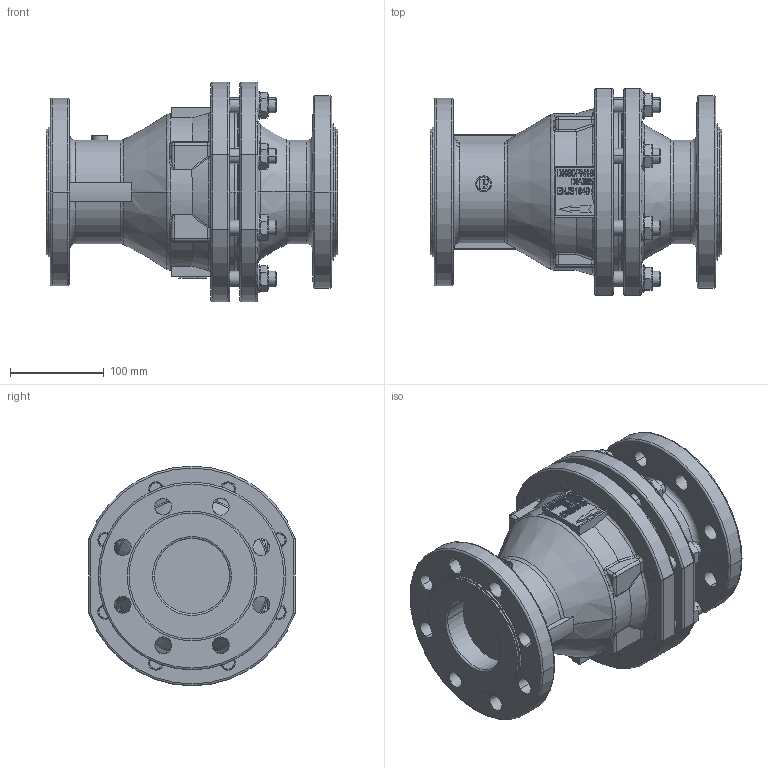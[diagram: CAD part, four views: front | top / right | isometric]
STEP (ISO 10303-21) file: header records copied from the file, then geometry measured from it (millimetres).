
FILE_DESCRIPTION((''),'2;1');
FILE_NAME('9595-80-0306_E_CV80_PROE','2015-03-25T',('SParmar1'),(''),'PRO/ENGINEER BY PARAMETRIC TECHNOLOGY CORPORATION, 2011040','PRO/ENGINEER BY PARAMETRIC TECHNOLOGY CORPORATION, 2011040','');
FILE_SCHEMA(('CONFIG_CONTROL_DESIGN'));
Length unit declared in the file: millimetre
Products named in the file (1): 9595-80-0306_E_CV80_PROE
Bounding box: 310 x 220 x 234 mm (x, y, z)
Volume: 6111108.2 mm3; surface area: 480994.8 mm2
Topology: 1 solids, 25 shells, 1188 faces, 3024 edges, 1934 vertices
Faces by surface type: plane 358, extrusion 296, cylinder 272, cone 160, torus 50, sphere 28, bspline 24
Entity records: 39405 total; most frequent: CARTESIAN_POINT 11979, ORIENTED_EDGE 5952, DIRECTION 4902, EDGE_CURVE 3024, VERTEX_POINT 1934, AXIS2_PLACEMENT_3D 1695, VECTOR 1512, EDGE_LOOP 1330
